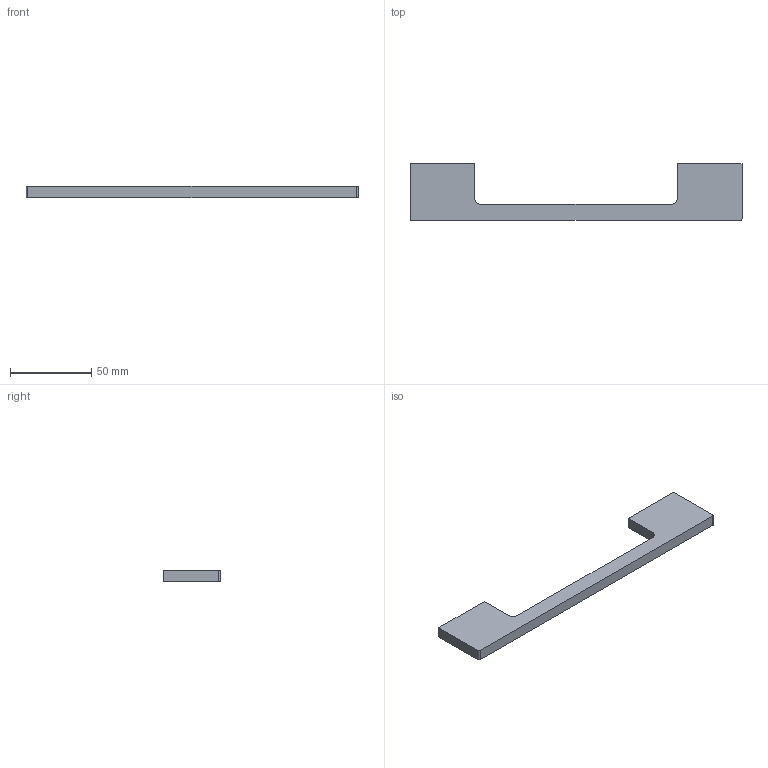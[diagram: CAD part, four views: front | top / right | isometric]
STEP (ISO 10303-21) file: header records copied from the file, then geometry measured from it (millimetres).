
FILE_DESCRIPTION( ( '' ), '1' );
FILE_NAME( 'C:/Documents and Settings/Nikhil/Desktop/Nik/Done/115018.stp', '2013-10-24T06:18:25', ( '' ), ( '' ), ' ', ' ', ' ' );
FILE_SCHEMA( ( 'automotive_design' ) );
Length unit declared in the file: millimetre
Products named in the file (1): 1
Bounding box: 204 x 35 x 7 mm (x, y, z)
Volume: 27949 mm3; surface area: 11909.9 mm2
Topology: 1 solids, 1 shells, 20 faces, 48 edges, 32 vertices
Faces by surface type: plane 12, cylinder 8
Entity records: 1172 total; most frequent: DIRECTION 106, STYLED_ITEM 101, PRESENTATION_STYLE_ASSIGNMENT 101, CARTESIAN_POINT 101, COLOUR_RGB 101, ORIENTED_EDGE 96, EDGE_CURVE 48, CURVE_STYLE 48
